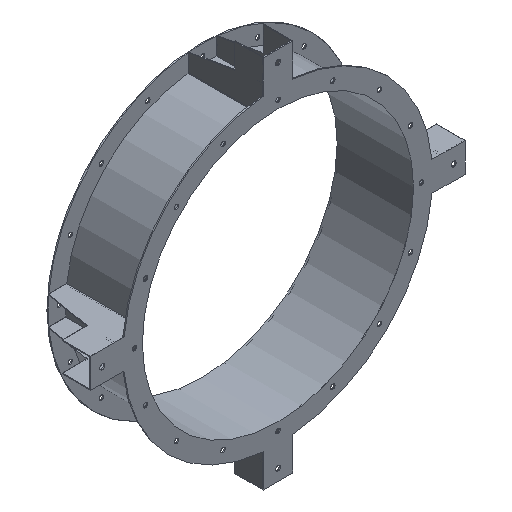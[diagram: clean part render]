
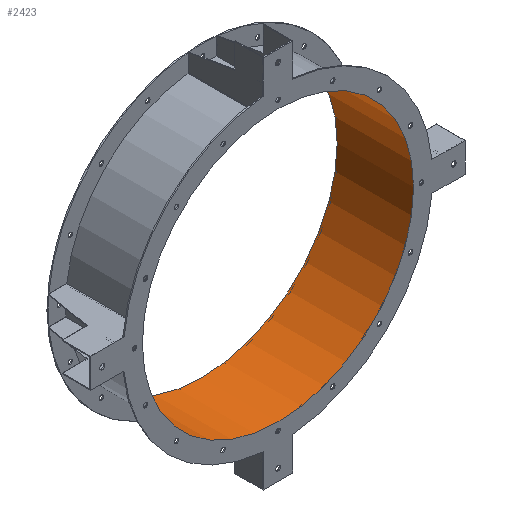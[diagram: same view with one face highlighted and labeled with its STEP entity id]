
A CAD part, isometric view. The second image highlights one B-rep face of the part: STEP entity #2423.
In plain terms, the highlighted cylindrical face has radius 355 mm (diameter 710 mm), a full revolution.
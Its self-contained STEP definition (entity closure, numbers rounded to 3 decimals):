
#290=FACE_OUTER_BOUND('',#445,.T.);
#445=EDGE_LOOP('',(#2168,#2169,#2170,#2171,#2172,#2173));
#685=LINE('',#4092,#883);
#883=VECTOR('',#3369,355.);
#1006=CIRCLE('',#2685,355.);
#1007=CIRCLE('',#2686,355.);
#1008=CIRCLE('',#2687,355.);
#1009=CIRCLE('',#2688,355.);
#1229=VERTEX_POINT('',#4088);
#1230=VERTEX_POINT('',#4089);
#1231=VERTEX_POINT('',#4091);
#1232=VERTEX_POINT('',#4093);
#1568=EDGE_CURVE('',#1229,#1230,#1006,.T.);
#1569=EDGE_CURVE('',#1230,#1231,#685,.T.);
#1570=EDGE_CURVE('',#1232,#1231,#1007,.T.);
#1571=EDGE_CURVE('',#1231,#1232,#1008,.T.);
#1572=EDGE_CURVE('',#1230,#1229,#1009,.T.);
#2168=ORIENTED_EDGE('',*,*,#1568,.T.);
#2169=ORIENTED_EDGE('',*,*,#1569,.T.);
#2170=ORIENTED_EDGE('',*,*,#1570,.F.);
#2171=ORIENTED_EDGE('',*,*,#1571,.F.);
#2172=ORIENTED_EDGE('',*,*,#1569,.F.);
#2173=ORIENTED_EDGE('',*,*,#1572,.T.);
#2306=CYLINDRICAL_SURFACE('',#2684,355.);
#2423=ADVANCED_FACE('',(#290),#2306,.F.);
#2684=AXIS2_PLACEMENT_3D('',#4087,#3365,#3366);
#2685=AXIS2_PLACEMENT_3D('',#4090,#3367,#3368);
#2686=AXIS2_PLACEMENT_3D('',#4094,#3370,#3371);
#2687=AXIS2_PLACEMENT_3D('',#4095,#3372,#3373);
#2688=AXIS2_PLACEMENT_3D('',#4096,#3374,#3375);
#3365=DIRECTION('center_axis',(0.,1.,0.));
#3366=DIRECTION('ref_axis',(-1.,0.,0.));
#3367=DIRECTION('center_axis',(0.,1.,0.));
#3368=DIRECTION('ref_axis',(1.,0.,0.));
#3369=DIRECTION('',(0.,-1.,0.));
#3370=DIRECTION('center_axis',(0.,1.,0.));
#3371=DIRECTION('ref_axis',(1.,0.,0.));
#3372=DIRECTION('center_axis',(0.,1.,0.));
#3373=DIRECTION('ref_axis',(1.,0.,0.));
#3374=DIRECTION('center_axis',(0.,1.,0.));
#3375=DIRECTION('ref_axis',(1.,0.,0.));
#4087=CARTESIAN_POINT('Origin',(0.,100.,0.));
#4088=CARTESIAN_POINT('',(-355.,200.,0.));
#4089=CARTESIAN_POINT('',(355.,200.,0.));
#4090=CARTESIAN_POINT('Origin',(0.,200.,0.));
#4091=CARTESIAN_POINT('',(355.,0.,0.));
#4092=CARTESIAN_POINT('',(355.,100.,0.));
#4093=CARTESIAN_POINT('',(-355.,0.,0.));
#4094=CARTESIAN_POINT('Origin',(0.,0.,0.));
#4095=CARTESIAN_POINT('Origin',(0.,0.,0.));
#4096=CARTESIAN_POINT('Origin',(0.,200.,0.));
